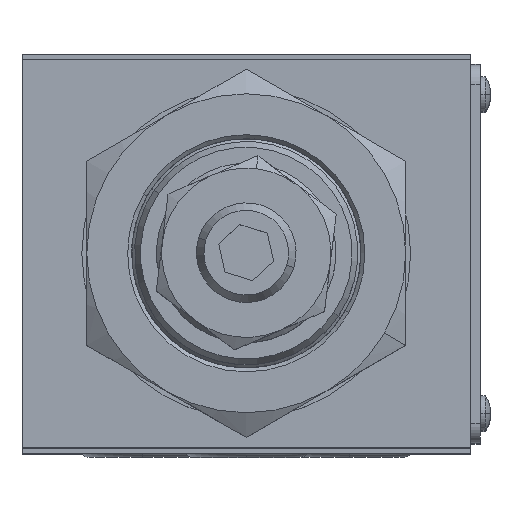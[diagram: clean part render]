
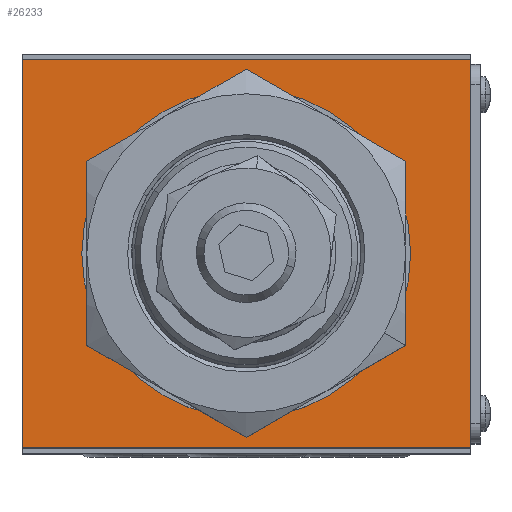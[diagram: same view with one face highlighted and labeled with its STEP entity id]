
A CAD part, top view. The second image highlights one B-rep face of the part: STEP entity #26233.
In plain terms, the highlighted planar face has unit normal (0, 0, 1).
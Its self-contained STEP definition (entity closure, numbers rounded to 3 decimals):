
#5849 = EDGE_LOOP ( 'NONE', ( #29338, #46799 ) ) ;
#6137 = AXIS2_PLACEMENT_3D ( 'NONE', #56652, #10841, #64354 ) ;
#6559 = DIRECTION ( 'NONE',  ( -1., 0., 0. ) ) ;
#9051 = ORIENTED_EDGE ( 'NONE', *, *, #29920, .F. ) ;
#10563 = ORIENTED_EDGE ( 'NONE', *, *, #73651, .F. ) ;
#10841 = DIRECTION ( 'NONE',  ( 0., 0., 1. ) ) ;
#11842 = DIRECTION ( 'NONE',  ( 0., 0., 1. ) ) ;
#13965 = DIRECTION ( 'NONE',  ( 1., 0., 0. ) ) ;
#14196 = DIRECTION ( 'NONE',  ( 0., -1., 0. ) ) ;
#19397 = LINE ( 'NONE', #89017, #60122 ) ;
#20442 = FACE_OUTER_BOUND ( 'NONE', #42256, .T. ) ;
#24940 = CARTESIAN_POINT ( 'NONE',  ( -22.5, 19.5, 47.5 ) ) ;
#25165 = ORIENTED_EDGE ( 'NONE', *, *, #74214, .T. ) ;
#26233 = ADVANCED_FACE ( 'NONE', ( #76617, #20442 ), #74775, .T. ) ;
#29338 = ORIENTED_EDGE ( 'NONE', *, *, #80142, .F. ) ;
#29920 = EDGE_CURVE ( 'NONE', #80638, #84622, #19397, .T. ) ;
#36715 = CARTESIAN_POINT ( 'NONE',  ( -22.5, -20., 47.5 ) ) ;
#41325 = VERTEX_POINT ( 'NONE', #46599 ) ;
#42256 = EDGE_LOOP ( 'NONE', ( #9051, #52032, #10563, #25165 ) ) ;
#45509 = VERTEX_POINT ( 'NONE', #51258 ) ;
#45985 = DIRECTION ( 'NONE',  ( 0., 1., 0. ) ) ;
#46599 = CARTESIAN_POINT ( 'NONE',  ( 16.5, 0., 47.5 ) ) ;
#46799 = ORIENTED_EDGE ( 'NONE', *, *, #74070, .F. ) ;
#47996 = EDGE_CURVE ( 'NONE', #80638, #82353, #66792, .T. ) ;
#51021 = AXIS2_PLACEMENT_3D ( 'NONE', #57657, #11842, #65347 ) ;
#51258 = CARTESIAN_POINT ( 'NONE',  ( -22.5, 19.5, 47.5 ) ) ;
#52032 = ORIENTED_EDGE ( 'NONE', *, *, #47996, .T. ) ;
#52269 = CARTESIAN_POINT ( 'NONE',  ( -22.5, 20., 47.5 ) ) ;
#56652 = CARTESIAN_POINT ( 'NONE',  ( 0., 0., 47.5 ) ) ;
#57657 = CARTESIAN_POINT ( 'NONE',  ( 0., 0., 47.5 ) ) ;
#59746 = DIRECTION ( 'NONE',  ( 0., 0., 1. ) ) ;
#60084 = VECTOR ( 'NONE', #70774, 1000. ) ;
#60122 = VECTOR ( 'NONE', #6559, 1000. ) ;
#61035 = CARTESIAN_POINT ( 'NONE',  ( 22.5, 20., 47.5 ) ) ;
#64354 = DIRECTION ( 'NONE',  ( 1., 0., 0. ) ) ;
#65347 = DIRECTION ( 'NONE',  ( 1., 0., 0. ) ) ;
#66792 = LINE ( 'NONE', #61035, #84612 ) ;
#66951 = AXIS2_PLACEMENT_3D ( 'NONE', #36715, #59746, #13965 ) ;
#69662 = LINE ( 'NONE', #24940, #60084 ) ;
#70774 = DIRECTION ( 'NONE',  ( 1., 0., 0. ) ) ;
#73651 = EDGE_CURVE ( 'NONE', #45509, #82353, #69662, .T. ) ;
#74070 = EDGE_CURVE ( 'NONE', #85297, #41325, #95736, .T. ) ;
#74214 = EDGE_CURVE ( 'NONE', #45509, #84622, #74277, .T. ) ;
#74277 = LINE ( 'NONE', #52269, #92110 ) ;
#74775 = PLANE ( 'NONE',  #66951 ) ;
#76617 = FACE_BOUND ( 'NONE', #5849, .T. ) ;
#77952 = CIRCLE ( 'NONE', #6137, 16.5 ) ;
#78848 = CARTESIAN_POINT ( 'NONE',  ( 22.5, -19.5, 47.5 ) ) ;
#79092 = CARTESIAN_POINT ( 'NONE',  ( 22.5, 19.5, 47.5 ) ) ;
#80142 = EDGE_CURVE ( 'NONE', #41325, #85297, #77952, .T. ) ;
#80638 = VERTEX_POINT ( 'NONE', #78848 ) ;
#82353 = VERTEX_POINT ( 'NONE', #79092 ) ;
#84612 = VECTOR ( 'NONE', #45985, 1000. ) ;
#84622 = VERTEX_POINT ( 'NONE', #98234 ) ;
#85297 = VERTEX_POINT ( 'NONE', #86648 ) ;
#86648 = CARTESIAN_POINT ( 'NONE',  ( -16.5, 0., 47.5 ) ) ;
#89017 = CARTESIAN_POINT ( 'NONE',  ( -22.5, -19.5, 47.5 ) ) ;
#92110 = VECTOR ( 'NONE', #14196, 1000. ) ;
#95736 = CIRCLE ( 'NONE', #51021, 16.5 ) ;
#98234 = CARTESIAN_POINT ( 'NONE',  ( -22.5, -19.5, 47.5 ) ) ;
